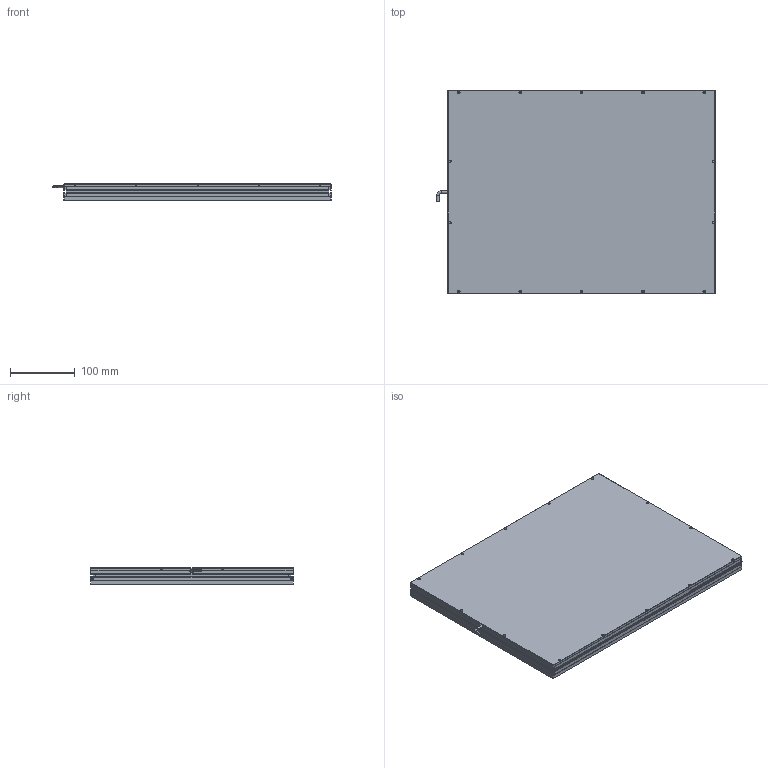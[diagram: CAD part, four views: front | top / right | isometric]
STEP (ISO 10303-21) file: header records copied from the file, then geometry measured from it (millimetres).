
FILE_DESCRIPTION (( 'STEP AP203' ), '1' );
FILE_NAME ('CRT-2PFLD400300-¼òÒ×3DÍ¼.STEP', '2021-11-27T03:44:31', ( 'Admin' ), ( '' ), 'SwSTEP 2.0', 'SolidWorks 2018', '' );
FILE_SCHEMA (( 'CONFIG_CONTROL_DESIGN' ));
Length unit declared in the file: millimetre
Products named in the file (1): CRT-2PFLD400300-潠眢3D芞
Bounding box: 431.25 x 314 x 25.5 mm (x, y, z)
Surface area: 441393.9 mm2 (no closed solid volume)
Topology: 0 solids, 7 shells, 211 faces, 702 edges, 484 vertices
Faces by surface type: cylinder 87, plane 85, cone 37, bspline 2
Entity records: 7819 total; most frequent: CARTESIAN_POINT 1532, DIRECTION 1351, ORIENTED_EDGE 1135, EDGE_CURVE 702, VERTEX_POINT 484, AXIS2_PLACEMENT_3D 459, VECTOR 433, LINE 433
